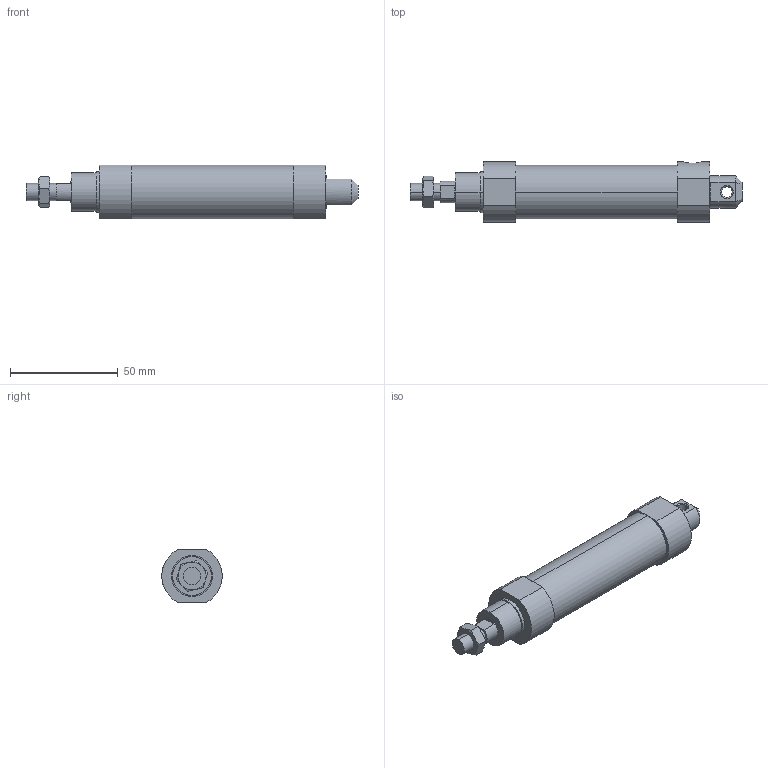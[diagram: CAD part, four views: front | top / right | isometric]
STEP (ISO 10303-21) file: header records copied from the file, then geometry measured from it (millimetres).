
FILE_DESCRIPTION (( 'STEP AP203' ), '1' );
FILE_NAME ('J#1-20-15(25)-C.STEP', '2016-03-08T06:39:19', ( '' ), ( '' ), 'SwSTEP 2.0', 'SolidWorks 2014', '' );
FILE_SCHEMA (( 'CONFIG_CONTROL_DESIGN' ));
Length unit declared in the file: millimetre
Products named in the file (3): J#1-20-15-C; J#1-20-15(25)-C
Assembly tree (2 placements, depth 2):
  J#1-20-15(25)-C
    J#1-20-15-C
    (unnamed)
Bounding box: 154 x 27.95 x 25 mm (x, y, z)
Volume: 60824.9 mm3; surface area: 12822.4 mm2
Topology: 2 solids, 2 shells, 75 faces, 166 edges, 100 vertices
Faces by surface type: plane 35, cylinder 22, torus 12, cone 6
Entity records: 2519 total; most frequent: CARTESIAN_POINT 560, DIRECTION 364, ORIENTED_EDGE 332, EDGE_CURVE 166, AXIS2_PLACEMENT_3D 148, VERTEX_POINT 100, EDGE_LOOP 84, ADVANCED_FACE 75
